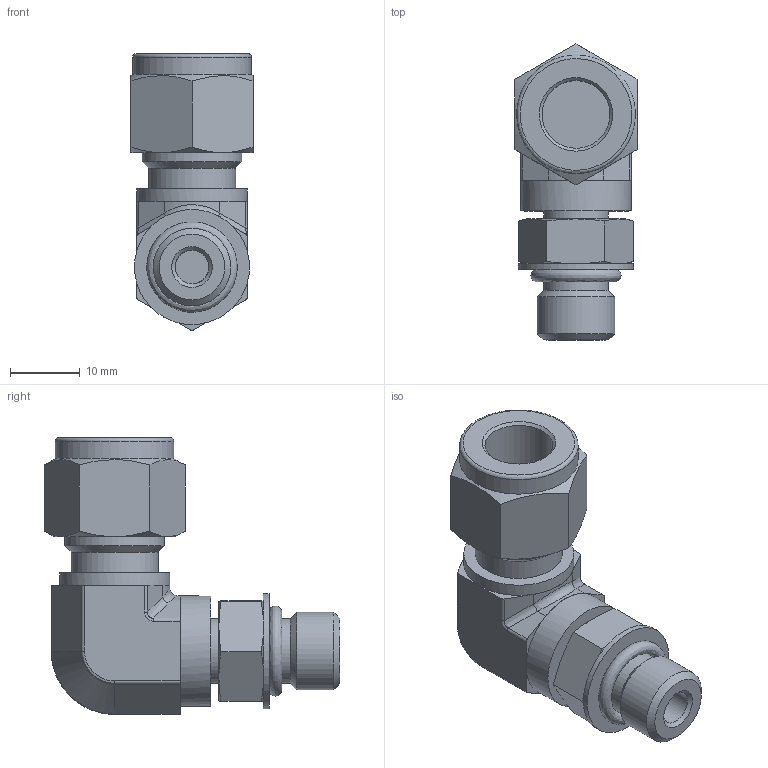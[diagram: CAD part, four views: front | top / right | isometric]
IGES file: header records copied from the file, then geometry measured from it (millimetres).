
Global section: file name: SPME-6-4U; native system: Autodesk Inventor 2016; preprocessor: unknown; author: DESIGNPC2; date: 20160115.104549; units: millimetre
Bounding box: 17.5 x 42.4 x 39.71 mm (x, y, z)
Volume: 10309.1 mm3; surface area: 5662.2 mm2
Topology: 4 solids, 4 shells, 115 faces, 274 edges, 176 vertices
Faces by surface type: bspline 115
